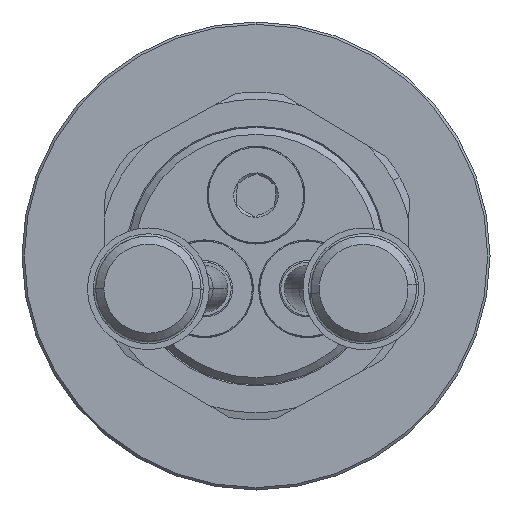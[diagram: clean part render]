
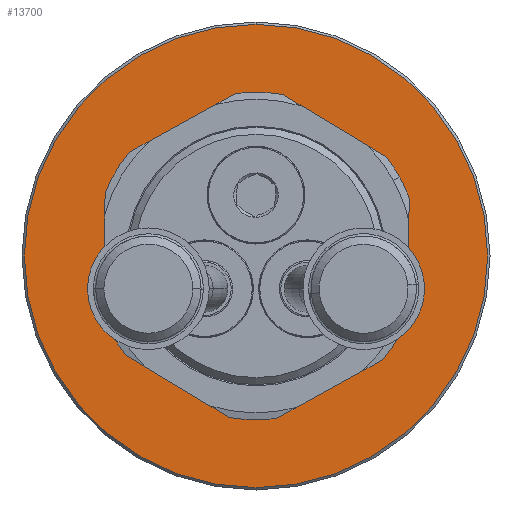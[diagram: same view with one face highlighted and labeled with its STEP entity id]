
A CAD part, front view. The second image highlights one B-rep face of the part: STEP entity #13700.
In plain terms, the highlighted planar face has unit normal (0, -1, 0).
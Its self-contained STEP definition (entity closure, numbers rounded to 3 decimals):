
#108 = DIRECTION ( 'NONE',  ( 0., 1., 0. ) ) ;
#111 = EDGE_LOOP ( 'NONE', ( #10373, #6661 ) ) ;
#915 = AXIS2_PLACEMENT_3D ( 'NONE', #2990, #11998, #3179 ) ;
#954 = DIRECTION ( 'NONE',  ( 0., 0., 1. ) ) ;
#1032 = ORIENTED_EDGE ( 'NONE', *, *, #17086, .T. ) ;
#1552 = CARTESIAN_POINT ( 'NONE',  ( 0., -1., -27.65 ) ) ;
#2128 = DIRECTION ( 'NONE',  ( 0., -1., 0. ) ) ;
#2224 = CARTESIAN_POINT ( 'NONE',  ( 0., -1., -49.5 ) ) ;
#2308 = DIRECTION ( 'NONE',  ( 0., -1., 0. ) ) ;
#2423 = CARTESIAN_POINT ( 'NONE',  ( 0., -1., 27.65 ) ) ;
#2941 = AXIS2_PLACEMENT_3D ( 'NONE', #13514, #108, #10122 ) ;
#2990 = CARTESIAN_POINT ( 'NONE',  ( 0., -1., 0. ) ) ;
#3021 = EDGE_CURVE ( 'NONE', #4067, #3996, #4030, .T. ) ;
#3179 = DIRECTION ( 'NONE',  ( 0., 0., 1. ) ) ;
#3503 = CARTESIAN_POINT ( 'NONE',  ( 0., -1., 0. ) ) ;
#3996 = VERTEX_POINT ( 'NONE', #2224 ) ;
#4030 = CIRCLE ( 'NONE', #7117, 49.5 ) ;
#4067 = VERTEX_POINT ( 'NONE', #15715 ) ;
#4317 = CIRCLE ( 'NONE', #12047, 49.5 ) ;
#4403 = PLANE ( 'NONE',  #2941 ) ;
#5713 = CARTESIAN_POINT ( 'NONE',  ( 0., -1., 0. ) ) ;
#6661 = ORIENTED_EDGE ( 'NONE', *, *, #18658, .F. ) ;
#6770 = EDGE_CURVE ( 'NONE', #9997, #14121, #6863, .T. ) ;
#6863 = CIRCLE ( 'NONE', #17708, 27.65 ) ;
#7117 = AXIS2_PLACEMENT_3D ( 'NONE', #5713, #2308, #954 ) ;
#7662 = DIRECTION ( 'NONE',  ( 0., -1., 0. ) ) ;
#8428 = ORIENTED_EDGE ( 'NONE', *, *, #3021, .T. ) ;
#8857 = FACE_OUTER_BOUND ( 'NONE', #9221, .T. ) ;
#8954 = FACE_BOUND ( 'NONE', #111, .T. ) ;
#9221 = EDGE_LOOP ( 'NONE', ( #8428, #1032 ) ) ;
#9997 = VERTEX_POINT ( 'NONE', #2423 ) ;
#10122 = DIRECTION ( 'NONE',  ( 1., 0., 0. ) ) ;
#10373 = ORIENTED_EDGE ( 'NONE', *, *, #6770, .F. ) ;
#10824 = CIRCLE ( 'NONE', #915, 27.65 ) ;
#11998 = DIRECTION ( 'NONE',  ( 0., -1., 0. ) ) ;
#12047 = AXIS2_PLACEMENT_3D ( 'NONE', #15030, #7662, #12119 ) ;
#12119 = DIRECTION ( 'NONE',  ( 0., 0., 1. ) ) ;
#13514 = CARTESIAN_POINT ( 'NONE',  ( -24.5, -1., 0. ) ) ;
#13700 = ADVANCED_FACE ( 'NONE', ( #8954, #8857 ), #4403, .F. ) ;
#14121 = VERTEX_POINT ( 'NONE', #1552 ) ;
#15030 = CARTESIAN_POINT ( 'NONE',  ( 0., -1., 0. ) ) ;
#15514 = DIRECTION ( 'NONE',  ( 0., 0., 1. ) ) ;
#15715 = CARTESIAN_POINT ( 'NONE',  ( 0., -1., 49.5 ) ) ;
#17086 = EDGE_CURVE ( 'NONE', #3996, #4067, #4317, .T. ) ;
#17708 = AXIS2_PLACEMENT_3D ( 'NONE', #3503, #2128, #15514 ) ;
#18658 = EDGE_CURVE ( 'NONE', #14121, #9997, #10824, .T. ) ;
